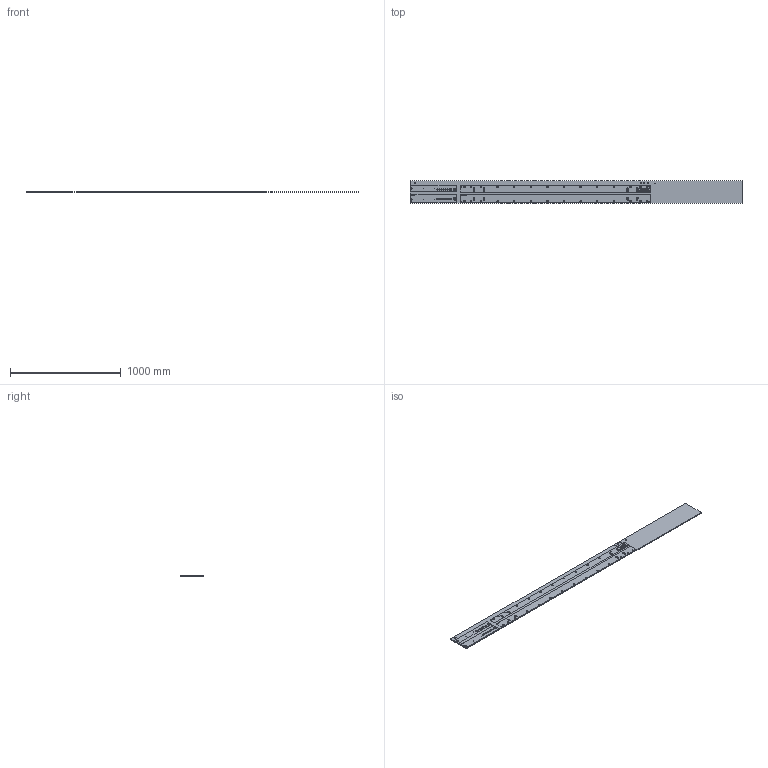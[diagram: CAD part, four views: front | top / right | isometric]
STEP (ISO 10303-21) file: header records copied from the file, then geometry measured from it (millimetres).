
FILE_DESCRIPTION(/* description */ (''),/* implementation_level */ '2;1');
FILE_NAME(/* name */ 'C:/Users/jakob/Documents/GitHub/fabricatable-machines/humphrey-large-format-cnc/humphrey_v3/parts/alu/step/X_Z_rail_cores.step',/* time_stamp */ '2018-08-17T09:44:07+02:00',/* author */ ('jaknil'),/* organization */ (''),/* preprocessor_version */ 'ST-DEVELOPER v17',/* originating_system */ 'Autodesk Translation Framework v7.1.0.215',/* authorisation */ '');
FILE_SCHEMA (('AUTOMOTIVE_DESIGN { 1 0 10303 214 3 1 1 }'));
Length unit declared in the file: millimetre
Products named in the file (8): CAM x-z rail; Stock; x-z-stock; Square_Roller_X_Rail; Square_Roller_Z_rack_rail; Center; Excenter; text
Assembly tree (10 placements, depth 3):
  CAM x-z rail
    Stock
      x-z-stock
    Square_Roller_X_Rail
    Square_Roller_Z_rack_rail
    Excenter  x4
    Center
    text
Bounding box: 3000 x 200 x 8 mm (x, y, z)
Surface area: 2013027 mm2
Topology: 9 solids, 9 shells, 1181 faces, 3159 edges, 2106 vertices
Faces by surface type: plane 452, bspline 451, cylinder 278
Full cylindrical faces by diameter (mm): 4.2 x16, 4.4 x2, 5 x5, 6 x60, 8 x5, 10 x8, 11 x8, 12.4 x5, 12.5 x28, 16.5 x1
Entity records: 41130 total; most frequent: CARTESIAN_POINT 15152, ORIENTED_EDGE 6012, DIRECTION 3931, EDGE_CURVE 3006, VERTEX_POINT 2004, LINE 1579, VECTOR 1579, EDGE_LOOP 1398
